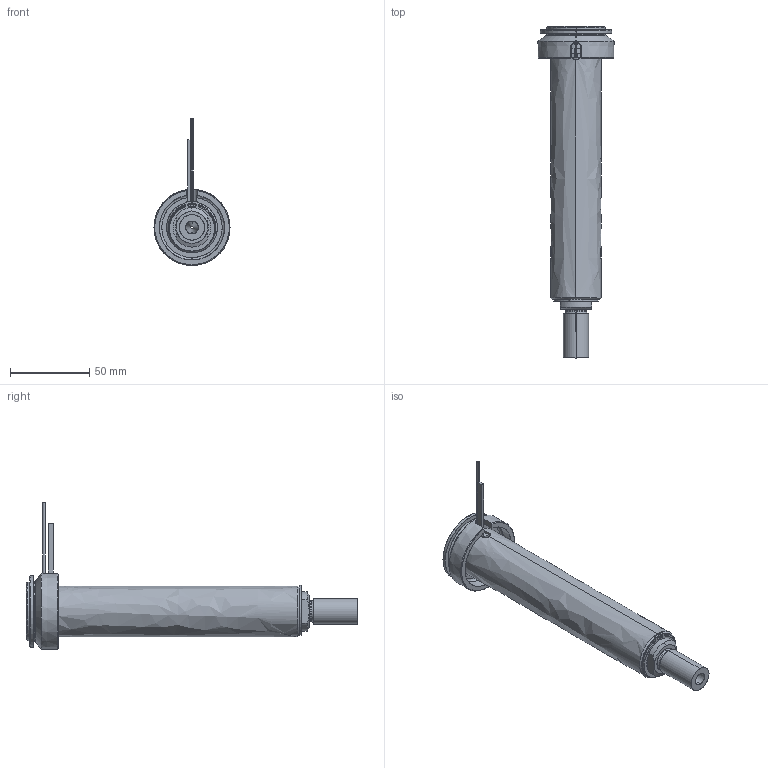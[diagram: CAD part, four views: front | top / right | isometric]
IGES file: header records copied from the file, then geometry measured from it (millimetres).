
Start section: SolidWorks IGES file using analytic representation for surfaces
Global section: file name: C:\Documents and Settings\ws-20\Desktop\TEMPORANEA\UGBE5004-M-A-P-5 [Ød-2.0 P-25 ØC-13].IGS; native system: SolidWorks 2012; preprocessor: SolidWorks 2012; author: ws-20; date: 120306.162512; units: millimetre
Bounding box: 48 x 209.25 x 92.62 mm (x, y, z)
Surface area: 67134.3 mm2 (no closed solid volume)
Topology: 0 solids, 0 shells, 107 faces, 2022 edges, 2022 vertices
Faces by surface type: revolution 61, bspline 46
